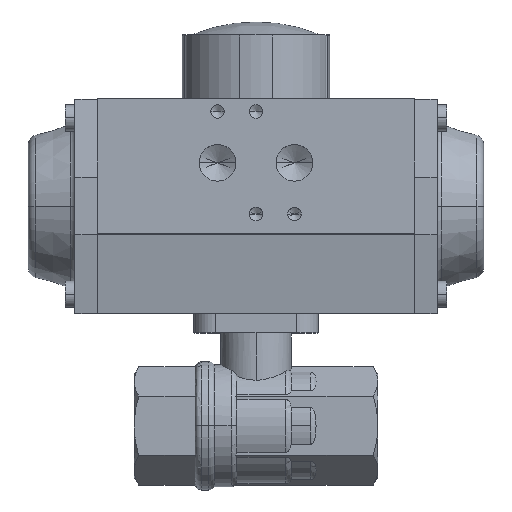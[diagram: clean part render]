
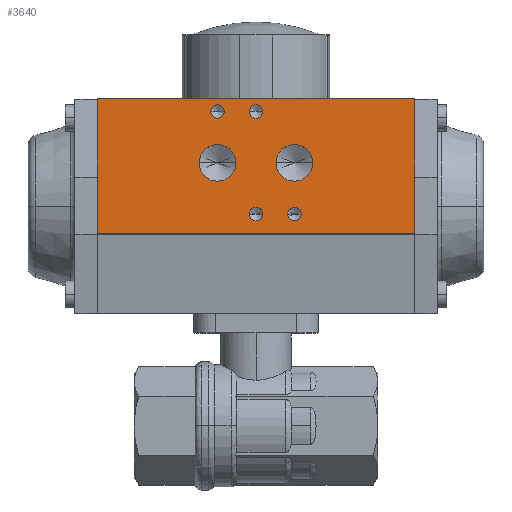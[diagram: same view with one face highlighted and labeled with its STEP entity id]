
A CAD part, top view. The second image highlights one B-rep face of the part: STEP entity #3640.
In plain terms, the highlighted planar face has unit normal (0, 0, 1) as drawn and (1, 0, 0) by its records, which use the part's own axes.
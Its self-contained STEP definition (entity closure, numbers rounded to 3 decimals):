
#191 = CARTESIAN_POINT ( 'NONE',  ( 36., 29.5, 12. ) ) ;
#192 = DIRECTION ( 'NONE',  ( 1., 0., 0. ) ) ;
#193 = DIRECTION ( 'NONE',  ( 0., 0., -1. ) ) ;
#209 = CARTESIAN_POINT ( 'NONE',  ( 36., -2.5, -12. ) ) ;
#210 = DIRECTION ( 'NONE',  ( 1., 0., 0. ) ) ;
#211 = DIRECTION ( 'NONE',  ( 0., 0., -1. ) ) ;
#227 = CARTESIAN_POINT ( 'NONE',  ( 36., -2.5, 0. ) ) ;
#228 = DIRECTION ( 'NONE',  ( 1., 0., 0. ) ) ;
#229 = DIRECTION ( 'NONE',  ( 0., 0., -1. ) ) ;
#245 = CARTESIAN_POINT ( 'NONE',  ( 36., 29.5, 0. ) ) ;
#246 = DIRECTION ( 'NONE',  ( 1., 0., 0. ) ) ;
#247 = DIRECTION ( 'NONE',  ( 0., 0., -1. ) ) ;
#263 = CARTESIAN_POINT ( 'NONE',  ( 36., 13.5, -12. ) ) ;
#264 = DIRECTION ( 'NONE',  ( 1., 0., 0. ) ) ;
#265 = DIRECTION ( 'NONE',  ( 0., 0., -1. ) ) ;
#281 = CARTESIAN_POINT ( 'NONE',  ( 36., 13.5, 12. ) ) ;
#282 = DIRECTION ( 'NONE',  ( 1., 0., 0. ) ) ;
#283 = DIRECTION ( 'NONE',  ( 0., 0., -1. ) ) ;
#1666 = LINE ( 'NONE', #1667, #7254 ) ;
#1667 = CARTESIAN_POINT ( 'NONE',  ( 36., 33.5, -49.5 ) ) ;
#1668 = DIRECTION ( 'NONE',  ( 0., 0., 1. ) ) ;
#1671 = CARTESIAN_POINT ( 'NONE',  ( 36., 29.5, 12. ) ) ;
#1672 = DIRECTION ( 'NONE',  ( 1., 0., 0. ) ) ;
#1673 = DIRECTION ( 'NONE',  ( 0., 0., -1. ) ) ;
#1674 = CARTESIAN_POINT ( 'NONE',  ( 36., -2.5, -12. ) ) ;
#1675 = DIRECTION ( 'NONE',  ( 1., 0., 0. ) ) ;
#1676 = DIRECTION ( 'NONE',  ( 0., 0., -1. ) ) ;
#1677 = CARTESIAN_POINT ( 'NONE',  ( 36., -2.5, 0. ) ) ;
#1678 = DIRECTION ( 'NONE',  ( 1., 0., 0. ) ) ;
#1679 = DIRECTION ( 'NONE',  ( 0., 0., -1. ) ) ;
#1680 = CARTESIAN_POINT ( 'NONE',  ( 36., 29.5, 0. ) ) ;
#1681 = DIRECTION ( 'NONE',  ( 1., 0., 0. ) ) ;
#1682 = DIRECTION ( 'NONE',  ( 0., 0., -1. ) ) ;
#1683 = LINE ( 'NONE', #1684, #7234 ) ;
#1684 = CARTESIAN_POINT ( 'NONE',  ( 36., -8.5, 49.5 ) ) ;
#1685 = CARTESIAN_POINT ( 'NONE',  ( 36., 13.5, -12. ) ) ;
#1686 = DIRECTION ( 'NONE',  ( 1., 0., 0. ) ) ;
#1687 = DIRECTION ( 'NONE',  ( 0., 0., -1. ) ) ;
#1688 = LINE ( 'NONE', #1698, #7232 ) ;
#1689 = LINE ( 'NONE', #1695, #7251 ) ;
#1690 = CARTESIAN_POINT ( 'NONE',  ( 36., 13.5, 12. ) ) ;
#1691 = DIRECTION ( 'NONE',  ( 1., 0., 0. ) ) ;
#1692 = DIRECTION ( 'NONE',  ( 0., 0., -1. ) ) ;
#1694 = DIRECTION ( 'NONE',  ( 0., 1., 0. ) ) ;
#1695 = CARTESIAN_POINT ( 'NONE',  ( 36., -8.5, -49.5 ) ) ;
#1697 = DIRECTION ( 'NONE',  ( 0., 0., 1. ) ) ;
#1698 = CARTESIAN_POINT ( 'NONE',  ( 36., -8.5, -49.5 ) ) ;
#1699 = DIRECTION ( 'NONE',  ( 0., 1., 0. ) ) ;
#2495 = VERTEX_POINT ( 'NONE', #5281 ) ;
#2500 = VERTEX_POINT ( 'NONE', #5286 ) ;
#2501 = VERTEX_POINT ( 'NONE', #5287 ) ;
#2503 = VERTEX_POINT ( 'NONE', #5289 ) ;
#3416 = EDGE_CURVE ( 'NONE', #4520, #4521, #7532, .T. ) ;
#3422 = EDGE_CURVE ( 'NONE', #4525, #4526, #7524, .T. ) ;
#3428 = EDGE_CURVE ( 'NONE', #4530, #4531, #7516, .T. ) ;
#3434 = EDGE_CURVE ( 'NONE', #4535, #4536, #7507, .T. ) ;
#3440 = EDGE_CURVE ( 'NONE', #4540, #4541, #7498, .T. ) ;
#3446 = EDGE_CURVE ( 'NONE', #4545, #4546, #7490, .T. ) ;
#3560 = EDGE_CURVE ( 'NONE', #2500, #2501, #1666, .T. ) ;
#3562 = EDGE_CURVE ( 'NONE', #4521, #4520, #7252, .T. ) ;
#3563 = EDGE_CURVE ( 'NONE', #4526, #4525, #7250, .T. ) ;
#3564 = EDGE_CURVE ( 'NONE', #4531, #4530, #7246, .T. ) ;
#3565 = EDGE_CURVE ( 'NONE', #4536, #4535, #7243, .T. ) ;
#3566 = EDGE_CURVE ( 'NONE', #4541, #4540, #7240, .T. ) ;
#3567 = EDGE_CURVE ( 'NONE', #4546, #4545, #7237, .T. ) ;
#3568 = EDGE_CURVE ( 'NONE', #2503, #2501, #1683, .T. ) ;
#3569 = EDGE_CURVE ( 'NONE', #2495, #2503, #1689, .T. ) ;
#3570 = EDGE_CURVE ( 'NONE', #2495, #2500, #1688, .T. ) ;
#3640 = ADVANCED_FACE ( 'NONE', ( #6404, #6400, #6407, #6409, #6403, #6405, #6406 ), #6408, .T. ) ;
#3678 = EDGE_LOOP ( 'NONE', ( #4847, #4848, #4849, #4850 ) ) ;
#3679 = EDGE_LOOP ( 'NONE', ( #4839, #4840 ) ) ;
#3680 = EDGE_LOOP ( 'NONE', ( #4843, #4844 ) ) ;
#3681 = EDGE_LOOP ( 'NONE', ( #4835, #4836 ) ) ;
#3682 = EDGE_LOOP ( 'NONE', ( #4841, #4842 ) ) ;
#3686 = EDGE_LOOP ( 'NONE', ( #4845, #4846 ) ) ;
#3687 = EDGE_LOOP ( 'NONE', ( #4837, #4838 ) ) ;
#4520 = VERTEX_POINT ( 'NONE', #6594 ) ;
#4521 = VERTEX_POINT ( 'NONE', #6595 ) ;
#4525 = VERTEX_POINT ( 'NONE', #6599 ) ;
#4526 = VERTEX_POINT ( 'NONE', #6600 ) ;
#4530 = VERTEX_POINT ( 'NONE', #6604 ) ;
#4531 = VERTEX_POINT ( 'NONE', #6605 ) ;
#4535 = VERTEX_POINT ( 'NONE', #6609 ) ;
#4536 = VERTEX_POINT ( 'NONE', #6610 ) ;
#4540 = VERTEX_POINT ( 'NONE', #6614 ) ;
#4541 = VERTEX_POINT ( 'NONE', #6615 ) ;
#4545 = VERTEX_POINT ( 'NONE', #6619 ) ;
#4546 = VERTEX_POINT ( 'NONE', #6620 ) ;
#4835 = ORIENTED_EDGE ( 'NONE', *, *, #3562, .F. ) ;
#4836 = ORIENTED_EDGE ( 'NONE', *, *, #3416, .F. ) ;
#4837 = ORIENTED_EDGE ( 'NONE', *, *, #3563, .F. ) ;
#4838 = ORIENTED_EDGE ( 'NONE', *, *, #3422, .F. ) ;
#4839 = ORIENTED_EDGE ( 'NONE', *, *, #3564, .F. ) ;
#4840 = ORIENTED_EDGE ( 'NONE', *, *, #3428, .F. ) ;
#4841 = ORIENTED_EDGE ( 'NONE', *, *, #3565, .F. ) ;
#4842 = ORIENTED_EDGE ( 'NONE', *, *, #3434, .F. ) ;
#4843 = ORIENTED_EDGE ( 'NONE', *, *, #3566, .F. ) ;
#4844 = ORIENTED_EDGE ( 'NONE', *, *, #3440, .F. ) ;
#4845 = ORIENTED_EDGE ( 'NONE', *, *, #3567, .F. ) ;
#4846 = ORIENTED_EDGE ( 'NONE', *, *, #3446, .F. ) ;
#4847 = ORIENTED_EDGE ( 'NONE', *, *, #3560, .T. ) ;
#4848 = ORIENTED_EDGE ( 'NONE', *, *, #3568, .F. ) ;
#4849 = ORIENTED_EDGE ( 'NONE', *, *, #3569, .F. ) ;
#4850 = ORIENTED_EDGE ( 'NONE', *, *, #3570, .T. ) ;
#5281 = CARTESIAN_POINT ( 'NONE',  ( 36., -8.5, -49.5 ) ) ;
#5286 = CARTESIAN_POINT ( 'NONE',  ( 36., 33.5, -49.5 ) ) ;
#5287 = CARTESIAN_POINT ( 'NONE',  ( 36., 33.5, 49.5 ) ) ;
#5289 = CARTESIAN_POINT ( 'NONE',  ( 36., -8.5, 49.5 ) ) ;
#6396 = CARTESIAN_POINT ( 'NONE',  ( 36., -8.5, -49.5 ) ) ;
#6400 = FACE_BOUND ( 'NONE', #3687, .T. ) ;
#6403 = FACE_BOUND ( 'NONE', #3680, .T. ) ;
#6404 = FACE_BOUND ( 'NONE', #3681, .T. ) ;
#6405 = FACE_BOUND ( 'NONE', #3686, .T. ) ;
#6406 = FACE_OUTER_BOUND ( 'NONE', #3678, .T. ) ;
#6407 = FACE_BOUND ( 'NONE', #3679, .T. ) ;
#6408 = PLANE ( 'NONE',  #7063 ) ;
#6409 = FACE_BOUND ( 'NONE', #3682, .T. ) ;
#6412 = DIRECTION ( 'NONE',  ( 1., 0., 0. ) ) ;
#6413 = DIRECTION ( 'NONE',  ( 0., 0., -1. ) ) ;
#6594 = CARTESIAN_POINT ( 'NONE',  ( 36., 29.5, 14.1 ) ) ;
#6595 = CARTESIAN_POINT ( 'NONE',  ( 36., 29.5, 9.9 ) ) ;
#6599 = CARTESIAN_POINT ( 'NONE',  ( 36., -2.5, -9.9 ) ) ;
#6600 = CARTESIAN_POINT ( 'NONE',  ( 36., -2.5, -14.1 ) ) ;
#6604 = CARTESIAN_POINT ( 'NONE',  ( 36., -2.5, 2.1 ) ) ;
#6605 = CARTESIAN_POINT ( 'NONE',  ( 36., -2.5, -2.1 ) ) ;
#6609 = CARTESIAN_POINT ( 'NONE',  ( 36., 29.5, 2.1 ) ) ;
#6610 = CARTESIAN_POINT ( 'NONE',  ( 36., 29.5, -2.1 ) ) ;
#6614 = CARTESIAN_POINT ( 'NONE',  ( 36., 13.5, -6.277 ) ) ;
#6615 = CARTESIAN_POINT ( 'NONE',  ( 36., 13.5, -17.722 ) ) ;
#6619 = CARTESIAN_POINT ( 'NONE',  ( 36., 13.5, 17.722 ) ) ;
#6620 = CARTESIAN_POINT ( 'NONE',  ( 36., 13.5, 6.277 ) ) ;
#7063 = AXIS2_PLACEMENT_3D ( 'NONE', #6396, #6412, #6413 ) ;
#7232 = VECTOR ( 'NONE', #1699, 1000. ) ;
#7233 = AXIS2_PLACEMENT_3D ( 'NONE', #1690, #1691, #1692 ) ;
#7234 = VECTOR ( 'NONE', #1694, 1000. ) ;
#7236 = AXIS2_PLACEMENT_3D ( 'NONE', #1685, #1686, #1687 ) ;
#7237 = CIRCLE ( 'NONE', #7233, 5.722 ) ;
#7238 = AXIS2_PLACEMENT_3D ( 'NONE', #1680, #1681, #1682 ) ;
#7240 = CIRCLE ( 'NONE', #7236, 5.722 ) ;
#7241 = AXIS2_PLACEMENT_3D ( 'NONE', #1677, #1678, #1679 ) ;
#7243 = CIRCLE ( 'NONE', #7238, 2.1 ) ;
#7245 = AXIS2_PLACEMENT_3D ( 'NONE', #1674, #1675, #1676 ) ;
#7246 = CIRCLE ( 'NONE', #7241, 2.1 ) ;
#7247 = AXIS2_PLACEMENT_3D ( 'NONE', #1671, #1672, #1673 ) ;
#7250 = CIRCLE ( 'NONE', #7245, 2.1 ) ;
#7251 = VECTOR ( 'NONE', #1697, 1000. ) ;
#7252 = CIRCLE ( 'NONE', #7247, 2.1 ) ;
#7254 = VECTOR ( 'NONE', #1668, 1000. ) ;
#7486 = AXIS2_PLACEMENT_3D ( 'NONE', #281, #282, #283 ) ;
#7490 = CIRCLE ( 'NONE', #7486, 5.722 ) ;
#7494 = AXIS2_PLACEMENT_3D ( 'NONE', #263, #264, #265 ) ;
#7498 = CIRCLE ( 'NONE', #7494, 5.722 ) ;
#7503 = AXIS2_PLACEMENT_3D ( 'NONE', #245, #246, #247 ) ;
#7507 = CIRCLE ( 'NONE', #7503, 2.1 ) ;
#7512 = AXIS2_PLACEMENT_3D ( 'NONE', #227, #228, #229 ) ;
#7516 = CIRCLE ( 'NONE', #7512, 2.1 ) ;
#7520 = AXIS2_PLACEMENT_3D ( 'NONE', #209, #210, #211 ) ;
#7524 = CIRCLE ( 'NONE', #7520, 2.1 ) ;
#7528 = AXIS2_PLACEMENT_3D ( 'NONE', #191, #192, #193 ) ;
#7532 = CIRCLE ( 'NONE', #7528, 2.1 ) ;
